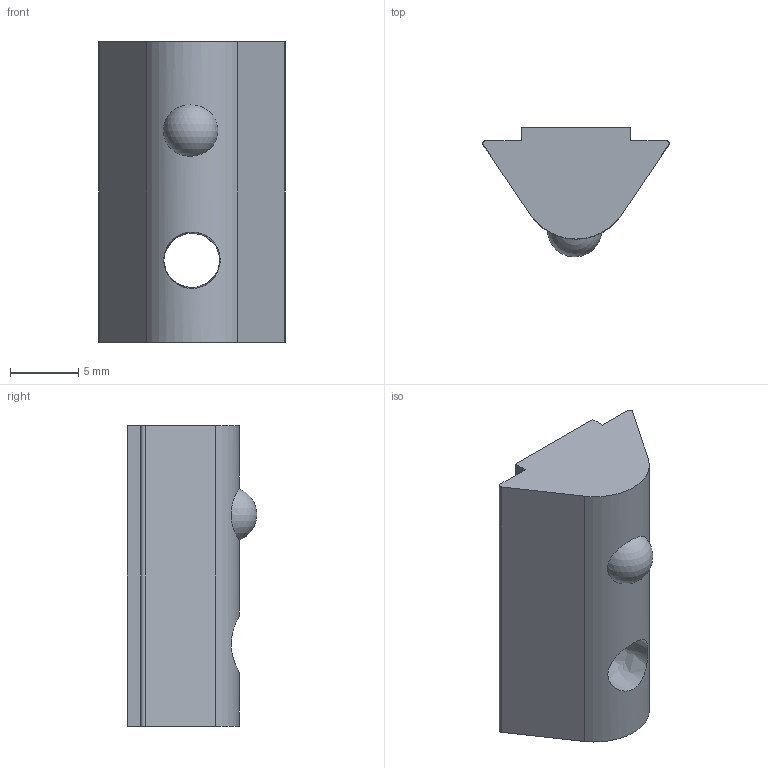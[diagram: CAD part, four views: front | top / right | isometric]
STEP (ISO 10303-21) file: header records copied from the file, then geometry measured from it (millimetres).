
FILE_DESCRIPTION((''),'2;1');
FILE_NAME('E:\catalogue and flyer\Profile catalogue 2015\Accessories JE info\Accessories-JE step file 31MAr16\JE-HRN5-8_4040.stp','2016-03-31T16:06:22',('h029'),(''),'Autodesk Inventor 11','Autodesk Inventor 11','');
FILE_SCHEMA(('AUTOMOTIVE_DESIGN { 1 0 10303 214 1 1 1 1 }'));
Length unit declared in the file: millimetre
Products named in the file (1): JE-HRN5-8_4040
Bounding box: 13.64 x 9.5 x 22 mm (x, y, z)
Volume: 1490.9 mm3; surface area: 1026.1 mm2
Topology: 1 solids, 1 shells, 14 faces, 35 edges, 24 vertices
Faces by surface type: plane 9, cylinder 3, bspline 1, sphere 1
Entity records: 582 total; most frequent: CARTESIAN_POINT 226, DIRECTION 66, ORIENTED_EDGE 66, EDGE_CURVE 33, VECTOR 24, LINE 24, VERTEX_POINT 23, AXIS2_PLACEMENT_3D 21
